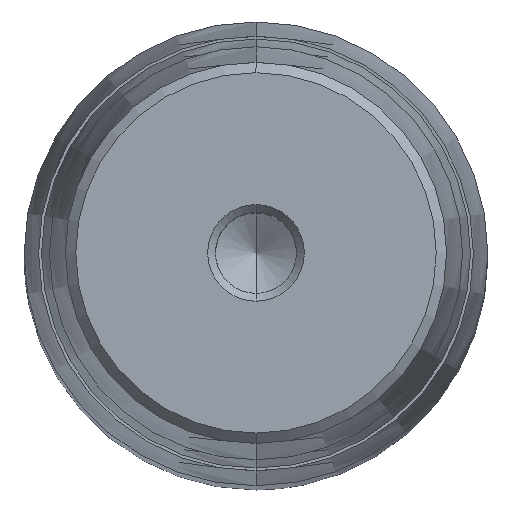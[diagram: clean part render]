
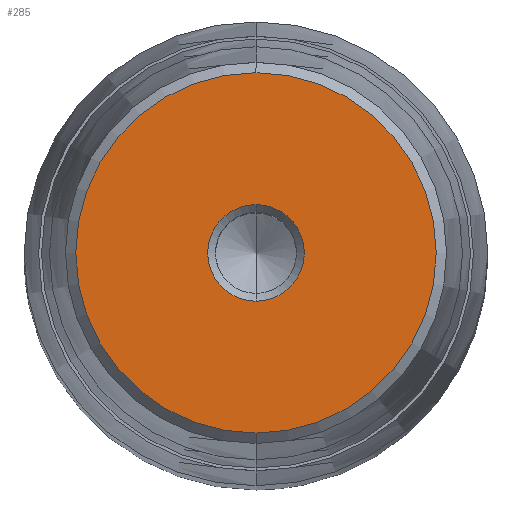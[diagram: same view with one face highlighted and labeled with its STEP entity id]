
A CAD part, top view. The second image highlights one B-rep face of the part: STEP entity #285.
In plain terms, the highlighted planar face has unit normal (0, 0, 1).
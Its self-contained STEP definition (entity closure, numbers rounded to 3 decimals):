
#164=CARTESIAN_POINT('Axis2P3D Location',(0.,0.,58.)) ;
#168=CARTESIAN_POINT('Vertex',(5.,0.,58.)) ;
#170=CARTESIAN_POINT('Vertex',(0.,-5.,58.)) ;
#173=CARTESIAN_POINT('Axis2P3D Location',(0.,0.,58.)) ;
#177=CARTESIAN_POINT('Vertex',(0.,5.,58.)) ;
#228=CARTESIAN_POINT('Axis2P3D Location',(0.,5.,58.)) ;
#233=CARTESIAN_POINT('Axis2P3D Location',(0.,0.,58.)) ;
#237=CARTESIAN_POINT('Vertex',(0.,18.65,58.)) ;
#239=CARTESIAN_POINT('Vertex',(18.65,0.,58.)) ;
#242=CARTESIAN_POINT('Axis2P3D Location',(0.,0.,58.)) ;
#246=CARTESIAN_POINT('Vertex',(-18.65,0.,58.)) ;
#249=CARTESIAN_POINT('Axis2P3D Location',(0.,0.,58.)) ;
#253=CARTESIAN_POINT('Vertex',(0.,-18.65,58.)) ;
#256=CARTESIAN_POINT('Axis2P3D Location',(0.,0.,58.)) ;
#267=CARTESIAN_POINT('Axis2P3D Location',(0.,0.,58.)) ;
#271=CARTESIAN_POINT('Vertex',(-5.,0.,58.)) ;
#274=CARTESIAN_POINT('Axis2P3D Location',(0.,0.,58.)) ;
#165=DIRECTION('Axis2P3D Direction',(0.,0.,1.)) ;
#174=DIRECTION('Axis2P3D Direction',(0.,0.,1.)) ;
#229=DIRECTION('Axis2P3D Direction',(-0.,0.,-1.)) ;
#230=DIRECTION('Axis2P3D XDirection',(0.,1.,0.)) ;
#234=DIRECTION('Axis2P3D Direction',(-0.,0.,-1.)) ;
#243=DIRECTION('Axis2P3D Direction',(-0.,0.,-1.)) ;
#250=DIRECTION('Axis2P3D Direction',(-0.,0.,-1.)) ;
#257=DIRECTION('Axis2P3D Direction',(-0.,0.,-1.)) ;
#268=DIRECTION('Axis2P3D Direction',(-0.,0.,-1.)) ;
#275=DIRECTION('Axis2P3D Direction',(-0.,0.,-1.)) ;
#166=AXIS2_PLACEMENT_3D('Circle Axis2P3D',#164,#165,$) ;
#175=AXIS2_PLACEMENT_3D('Circle Axis2P3D',#173,#174,$) ;
#231=AXIS2_PLACEMENT_3D('Plane Axis2P3D',#228,#229,#230) ;
#235=AXIS2_PLACEMENT_3D('Circle Axis2P3D',#233,#234,$) ;
#244=AXIS2_PLACEMENT_3D('Circle Axis2P3D',#242,#243,$) ;
#251=AXIS2_PLACEMENT_3D('Circle Axis2P3D',#249,#250,$) ;
#258=AXIS2_PLACEMENT_3D('Circle Axis2P3D',#256,#257,$) ;
#269=AXIS2_PLACEMENT_3D('Circle Axis2P3D',#267,#268,$) ;
#276=AXIS2_PLACEMENT_3D('Circle Axis2P3D',#274,#275,$) ;
#262=ORIENTED_EDGE('',*,*,#241,.F.) ;
#263=ORIENTED_EDGE('',*,*,#248,.F.) ;
#264=ORIENTED_EDGE('',*,*,#255,.F.) ;
#265=ORIENTED_EDGE('',*,*,#260,.F.) ;
#280=ORIENTED_EDGE('',*,*,#172,.T.) ;
#281=ORIENTED_EDGE('',*,*,#273,.T.) ;
#282=ORIENTED_EDGE('',*,*,#278,.T.) ;
#283=ORIENTED_EDGE('',*,*,#179,.T.) ;
#284=FACE_BOUND('',#279,.T.) ;
#285=ADVANCED_FACE('722-48x280x320',(#266,#284),#232,.F.) ;
#167=CIRCLE('generated circle',#166,5.) ;
#176=CIRCLE('generated circle',#175,5.) ;
#236=CIRCLE('generated circle',#235,18.65) ;
#245=CIRCLE('generated circle',#244,18.65) ;
#252=CIRCLE('generated circle',#251,18.65) ;
#259=CIRCLE('generated circle',#258,18.65) ;
#270=CIRCLE('generated circle',#269,5.) ;
#277=CIRCLE('generated circle',#276,5.) ;
#172=EDGE_CURVE('',#169,#171,#167,.F.) ;
#179=EDGE_CURVE('',#178,#169,#176,.F.) ;
#241=EDGE_CURVE('',#238,#240,#236,.T.) ;
#248=EDGE_CURVE('',#247,#238,#245,.T.) ;
#255=EDGE_CURVE('',#254,#247,#252,.T.) ;
#260=EDGE_CURVE('',#240,#254,#259,.T.) ;
#273=EDGE_CURVE('',#171,#272,#270,.T.) ;
#278=EDGE_CURVE('',#272,#178,#277,.T.) ;
#261=EDGE_LOOP('',(#262,#263,#264,#265)) ;
#279=EDGE_LOOP('',(#280,#281,#282,#283)) ;
#266=FACE_OUTER_BOUND('',#261,.T.) ;
#232=PLANE('Plane',#231) ;
#169=VERTEX_POINT('',#168) ;
#171=VERTEX_POINT('',#170) ;
#178=VERTEX_POINT('',#177) ;
#238=VERTEX_POINT('',#237) ;
#240=VERTEX_POINT('',#239) ;
#247=VERTEX_POINT('',#246) ;
#254=VERTEX_POINT('',#253) ;
#272=VERTEX_POINT('',#271) ;
